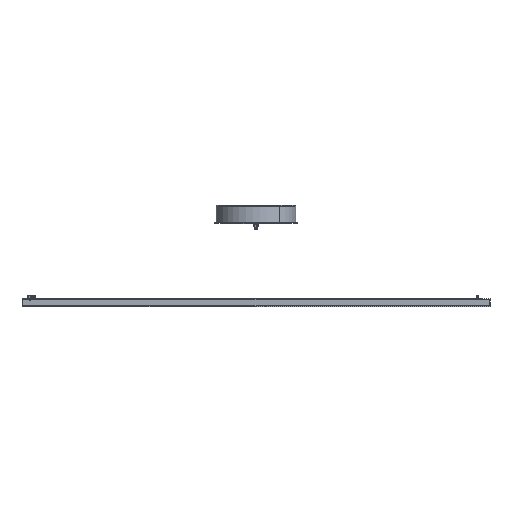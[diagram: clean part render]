
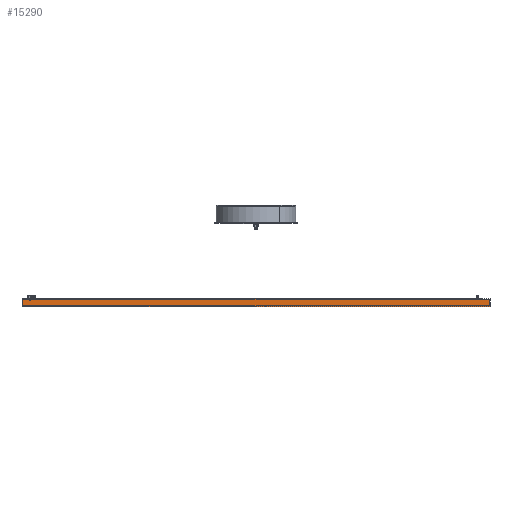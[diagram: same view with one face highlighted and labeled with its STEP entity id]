
A CAD part, left-side view. The second image highlights one B-rep face of the part: STEP entity #15290.
In plain terms, the highlighted planar face has unit normal (-1, 0, 0).
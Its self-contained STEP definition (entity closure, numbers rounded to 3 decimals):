
#894 = VERTEX_POINT ( 'NONE', #12682 ) ;
#1605 = DIRECTION ( 'NONE',  ( 0., -1., 0. ) ) ;
#2282 = DIRECTION ( 'NONE',  ( 1., 0., 0. ) ) ;
#2494 = VERTEX_POINT ( 'NONE', #14334 ) ;
#2577 = ORIENTED_EDGE ( 'NONE', *, *, #4295, .T. ) ;
#2617 = EDGE_CURVE ( 'NONE', #2494, #894, #2931, .T. ) ;
#2893 = LINE ( 'NONE', #13580, #6294 ) ;
#2931 = LINE ( 'NONE', #9985, #13388 ) ;
#3476 = ORIENTED_EDGE ( 'NONE', *, *, #2617, .T. ) ;
#4093 = VERTEX_POINT ( 'NONE', #7657 ) ;
#4295 = EDGE_CURVE ( 'NONE', #5350, #2494, #10647, .T. ) ;
#5350 = VERTEX_POINT ( 'NONE', #11421 ) ;
#6174 = AXIS2_PLACEMENT_3D ( 'NONE', #9274, #2282, #15320 ) ;
#6294 = VECTOR ( 'NONE', #13816, 1000. ) ;
#7106 = PLANE ( 'NONE',  #6174 ) ;
#7180 = FACE_OUTER_BOUND ( 'NONE', #11725, .T. ) ;
#7416 = DIRECTION ( 'NONE',  ( 0., 0., -1. ) ) ;
#7657 = CARTESIAN_POINT ( 'NONE',  ( -745., -745., 12.5 ) ) ;
#8163 = EDGE_CURVE ( 'NONE', #4093, #894, #13559, .T. ) ;
#8468 = VECTOR ( 'NONE', #13483, 1000. ) ;
#8565 = CARTESIAN_POINT ( 'NONE',  ( -745., 745., 12.5 ) ) ;
#9274 = CARTESIAN_POINT ( 'NONE',  ( -745., -745., 12.5 ) ) ;
#9985 = CARTESIAN_POINT ( 'NONE',  ( -745., -745., -12.5 ) ) ;
#10145 = ORIENTED_EDGE ( 'NONE', *, *, #8163, .F. ) ;
#10647 = LINE ( 'NONE', #8565, #15234 ) ;
#10960 = EDGE_CURVE ( 'NONE', #5350, #4093, #2893, .T. ) ;
#11421 = CARTESIAN_POINT ( 'NONE',  ( -745., 745., 12.5 ) ) ;
#11725 = EDGE_LOOP ( 'NONE', ( #3476, #10145, #13448, #2577 ) ) ;
#12682 = CARTESIAN_POINT ( 'NONE',  ( -745., -745., -12.5 ) ) ;
#13388 = VECTOR ( 'NONE', #1605, 1000. ) ;
#13448 = ORIENTED_EDGE ( 'NONE', *, *, #10960, .F. ) ;
#13483 = DIRECTION ( 'NONE',  ( 0., 0., -1. ) ) ;
#13559 = LINE ( 'NONE', #14669, #8468 ) ;
#13580 = CARTESIAN_POINT ( 'NONE',  ( -745., -745., 12.5 ) ) ;
#13816 = DIRECTION ( 'NONE',  ( 0., -1., 0. ) ) ;
#14334 = CARTESIAN_POINT ( 'NONE',  ( -745., 745., -12.5 ) ) ;
#14669 = CARTESIAN_POINT ( 'NONE',  ( -745., -745., 12.5 ) ) ;
#15234 = VECTOR ( 'NONE', #7416, 1000. ) ;
#15290 = ADVANCED_FACE ( 'NONE', ( #7180 ), #7106, .F. ) ;
#15320 = DIRECTION ( 'NONE',  ( 0., 0., -1. ) ) ;
